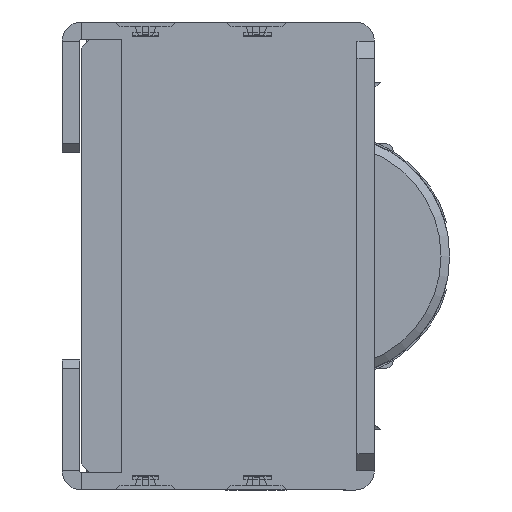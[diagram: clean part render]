
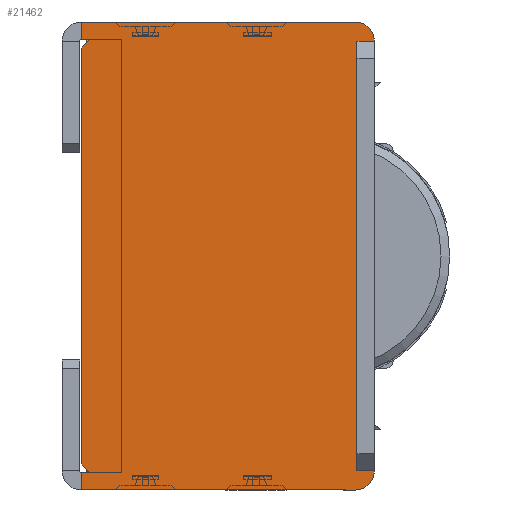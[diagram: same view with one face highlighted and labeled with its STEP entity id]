
A CAD part, left-side view. The second image highlights one B-rep face of the part: STEP entity #21462.
In plain terms, the highlighted planar face has unit normal (-1, 0, 0).
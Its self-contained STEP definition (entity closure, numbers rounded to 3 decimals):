
#924 = LINE ( 'NONE', #949, #948 ) ;
#943 = CARTESIAN_POINT ( 'NONE',  ( -84., 16.9, 13.5 ) ) ;
#947 = DIRECTION ( 'NONE',  ( 0., 1., 0. ) ) ;
#948 = VECTOR ( 'NONE', #947, 1000. ) ;
#949 = CARTESIAN_POINT ( 'NONE',  ( -84., 9.5, 13.5 ) ) ;
#965 = CIRCLE ( 'NONE', #1047, 1.1 ) ;
#966 = DIRECTION ( 'NONE',  ( 0., 0., 1. ) ) ;
#967 = DIRECTION ( 'NONE',  ( -1., 0., 0. ) ) ;
#974 = CIRCLE ( 'NONE', #985, 1.1 ) ;
#978 = CARTESIAN_POINT ( 'NONE',  ( -84., 1.1, 12.4 ) ) ;
#985 = AXIS2_PLACEMENT_3D ( 'NONE', #978, #967, #966 ) ;
#991 = CARTESIAN_POINT ( 'NONE',  ( -84., 1.1, 13.5 ) ) ;
#1037 = DIRECTION ( 'NONE',  ( 0., 0., 1. ) ) ;
#1038 = DIRECTION ( 'NONE',  ( -1., 0., 0. ) ) ;
#1039 = CARTESIAN_POINT ( 'NONE',  ( -84., 1.1, -12.4 ) ) ;
#1047 = AXIS2_PLACEMENT_3D ( 'NONE', #1039, #1038, #1037 ) ;
#1149 = CARTESIAN_POINT ( 'NONE',  ( -84., 1.1, -13.5 ) ) ;
#5073 = CARTESIAN_POINT ( 'NONE',  ( -84., 0., -12.4 ) ) ;
#5202 = CARTESIAN_POINT ( 'NONE',  ( -84., 0., 12.4 ) ) ;
#5263 = CARTESIAN_POINT ( 'NONE',  ( -84., 1., 12.4 ) ) ;
#5344 = DIRECTION ( 'NONE',  ( 0., 0., -1. ) ) ;
#5345 = VECTOR ( 'NONE', #5344, 1000. ) ;
#5346 = CARTESIAN_POINT ( 'NONE',  ( -84., 1., 13.5 ) ) ;
#5347 = LINE ( 'NONE', #5346, #5345 ) ;
#5384 = CARTESIAN_POINT ( 'NONE',  ( -84., 1., -12.4 ) ) ;
#17654 = DIRECTION ( 'NONE',  ( 0., 1., 0. ) ) ;
#17655 = VECTOR ( 'NONE', #17654, 1000. ) ;
#17656 = LINE ( 'NONE', #17674, #17655 ) ;
#17659 = CARTESIAN_POINT ( 'NONE',  ( -84., 16.9, -12.5 ) ) ;
#17668 = CARTESIAN_POINT ( 'NONE',  ( -84., 16.4, -12.5 ) ) ;
#17674 = CARTESIAN_POINT ( 'NONE',  ( -84., 18., -12.5 ) ) ;
#17695 = DIRECTION ( 'NONE',  ( 0., -1., 0. ) ) ;
#17696 = VECTOR ( 'NONE', #17695, 1000. ) ;
#17697 = CARTESIAN_POINT ( 'NONE',  ( -84., 1., 12.4 ) ) ;
#17708 = LINE ( 'NONE', #17697, #17696 ) ;
#17715 = LINE ( 'NONE', #17775, #17771 ) ;
#17752 = DIRECTION ( 'NONE',  ( 0., 0., -1. ) ) ;
#17753 = VECTOR ( 'NONE', #17752, 1000. ) ;
#17754 = LINE ( 'NONE', #17772, #17753 ) ;
#17765 = DIRECTION ( 'NONE',  ( 0., -1., 0. ) ) ;
#17766 = VECTOR ( 'NONE', #17765, 1000. ) ;
#17767 = CARTESIAN_POINT ( 'NONE',  ( -84., 1., -12.4 ) ) ;
#17768 = LINE ( 'NONE', #17767, #17766 ) ;
#17770 = DIRECTION ( 'NONE',  ( 0., -0.707, -0.707 ) ) ;
#17771 = VECTOR ( 'NONE', #17770, 1000. ) ;
#17772 = CARTESIAN_POINT ( 'NONE',  ( -84., 16.9, -12.5 ) ) ;
#17775 = CARTESIAN_POINT ( 'NONE',  ( -84., 16.4, -12.5 ) ) ;
#18119 = DIRECTION ( 'NONE',  ( 0., -1., 0. ) ) ;
#18124 = DIRECTION ( 'NONE',  ( 0., 0., -1. ) ) ;
#18125 = VECTOR ( 'NONE', #18124, 1000. ) ;
#18126 = CARTESIAN_POINT ( 'NONE',  ( -84., 16.9, 13.5 ) ) ;
#18127 = LINE ( 'NONE', #18126, #18125 ) ;
#18131 = PLANE ( 'NONE',  #18141 ) ;
#18141 = AXIS2_PLACEMENT_3D ( 'NONE', #18150, #18149, #18119 ) ;
#18142 = FACE_OUTER_BOUND ( 'NONE', #21569, .T. ) ;
#18149 = DIRECTION ( 'NONE',  ( 1., 0., 0. ) ) ;
#18150 = CARTESIAN_POINT ( 'NONE',  ( -84., 9.5, -13.5 ) ) ;
#18168 = CARTESIAN_POINT ( 'NONE',  ( -84., 16.9, 12. ) ) ;
#18172 = DIRECTION ( 'NONE',  ( 0., 0.707, -0.707 ) ) ;
#18183 = VECTOR ( 'NONE', #18172, 1000. ) ;
#18185 = CARTESIAN_POINT ( 'NONE',  ( -84., 16.9, 12. ) ) ;
#18186 = LINE ( 'NONE', #18185, #18183 ) ;
#18302 = DIRECTION ( 'NONE',  ( 0., 1., 0. ) ) ;
#18303 = VECTOR ( 'NONE', #18302, 1000. ) ;
#18320 = CARTESIAN_POINT ( 'NONE',  ( -84., 18., 12.5 ) ) ;
#18321 = LINE ( 'NONE', #18320, #18303 ) ;
#18324 = CARTESIAN_POINT ( 'NONE',  ( -84., 16.9, -12. ) ) ;
#18328 = CARTESIAN_POINT ( 'NONE',  ( -84., 16.9, 12.5 ) ) ;
#18339 = VECTOR ( 'NONE', #18343, 1000. ) ;
#18340 = LINE ( 'NONE', #18355, #18339 ) ;
#18343 = DIRECTION ( 'NONE',  ( 0., 0., 1. ) ) ;
#18352 = CARTESIAN_POINT ( 'NONE',  ( -84., 16.4, 12.5 ) ) ;
#18355 = CARTESIAN_POINT ( 'NONE',  ( -84., 16.9, 12.5 ) ) ;
#20713 = DIRECTION ( 'NONE',  ( 0., -1., 0. ) ) ;
#20714 = VECTOR ( 'NONE', #20713, 1000. ) ;
#20715 = CARTESIAN_POINT ( 'NONE',  ( -84., 9.5, -13.5 ) ) ;
#20716 = LINE ( 'NONE', #20715, #20714 ) ;
#20758 = CARTESIAN_POINT ( 'NONE',  ( -84., 16.9, -13.5 ) ) ;
#21028 = ORIENTED_EDGE ( 'NONE', *, *, #21236, .T. ) ;
#21162 = VERTEX_POINT ( 'NONE', #17668 ) ;
#21163 = VERTEX_POINT ( 'NONE', #17659 ) ;
#21166 = EDGE_CURVE ( 'NONE', #21162, #21163, #17656, .T. ) ;
#21176 = ORIENTED_EDGE ( 'NONE', *, *, #27146, .F. ) ;
#21177 = ORIENTED_EDGE ( 'NONE', *, *, #24283, .T. ) ;
#21179 = ORIENTED_EDGE ( 'NONE', *, *, #21166, .T. ) ;
#21180 = ORIENTED_EDGE ( 'NONE', *, *, #21245, .T. ) ;
#21183 = ORIENTED_EDGE ( 'NONE', *, *, #23558, .T. ) ;
#21184 = ORIENTED_EDGE ( 'NONE', *, *, #21238, .F. ) ;
#21186 = ORIENTED_EDGE ( 'NONE', *, *, #21195, .T. ) ;
#21195 = EDGE_CURVE ( 'NONE', #27128, #27077, #17708, .T. ) ;
#21236 = EDGE_CURVE ( 'NONE', #21562, #21162, #17715, .T. ) ;
#21238 = EDGE_CURVE ( 'NONE', #27157, #27059, #17768, .T. ) ;
#21245 = EDGE_CURVE ( 'NONE', #21163, #23619, #17754, .T. ) ;
#21459 = ORIENTED_EDGE ( 'NONE', *, *, #21480, .T. ) ;
#21460 = ORIENTED_EDGE ( 'NONE', *, *, #21570, .F. ) ;
#21461 = EDGE_CURVE ( 'NONE', #24234, #21567, #18127, .T. ) ;
#21462 = ADVANCED_FACE ( 'NONE', ( #18142 ), #18131, .F. ) ;
#21463 = ORIENTED_EDGE ( 'NONE', *, *, #24253, .T. ) ;
#21478 = ORIENTED_EDGE ( 'NONE', *, *, #21587, .F. ) ;
#21480 = EDGE_CURVE ( 'NONE', #21586, #21510, #18186, .T. ) ;
#21506 = ORIENTED_EDGE ( 'NONE', *, *, #21461, .T. ) ;
#21510 = VERTEX_POINT ( 'NONE', #18168 ) ;
#21561 = ORIENTED_EDGE ( 'NONE', *, *, #24220, .T. ) ;
#21562 = VERTEX_POINT ( 'NONE', #18324 ) ;
#21567 = VERTEX_POINT ( 'NONE', #18328 ) ;
#21569 = EDGE_LOOP ( 'NONE', ( #21463, #21561, #21506, #21460, #21459, #21478, #21028, #21179, #21180, #21183, #21177, #21184, #21176, #21186 ) ) ;
#21570 = EDGE_CURVE ( 'NONE', #21586, #21567, #18321, .T. ) ;
#21586 = VERTEX_POINT ( 'NONE', #18352 ) ;
#21587 = EDGE_CURVE ( 'NONE', #21562, #21510, #18340, .T. ) ;
#23558 = EDGE_CURVE ( 'NONE', #23619, #24387, #20716, .T. ) ;
#23619 = VERTEX_POINT ( 'NONE', #20758 ) ;
#24220 = EDGE_CURVE ( 'NONE', #24257, #24234, #924, .T. ) ;
#24234 = VERTEX_POINT ( 'NONE', #943 ) ;
#24253 = EDGE_CURVE ( 'NONE', #27077, #24257, #974, .T. ) ;
#24257 = VERTEX_POINT ( 'NONE', #991 ) ;
#24283 = EDGE_CURVE ( 'NONE', #24387, #27059, #965, .T. ) ;
#24387 = VERTEX_POINT ( 'NONE', #1149 ) ;
#27059 = VERTEX_POINT ( 'NONE', #5073 ) ;
#27077 = VERTEX_POINT ( 'NONE', #5202 ) ;
#27128 = VERTEX_POINT ( 'NONE', #5263 ) ;
#27146 = EDGE_CURVE ( 'NONE', #27128, #27157, #5347, .T. ) ;
#27157 = VERTEX_POINT ( 'NONE', #5384 ) ;
